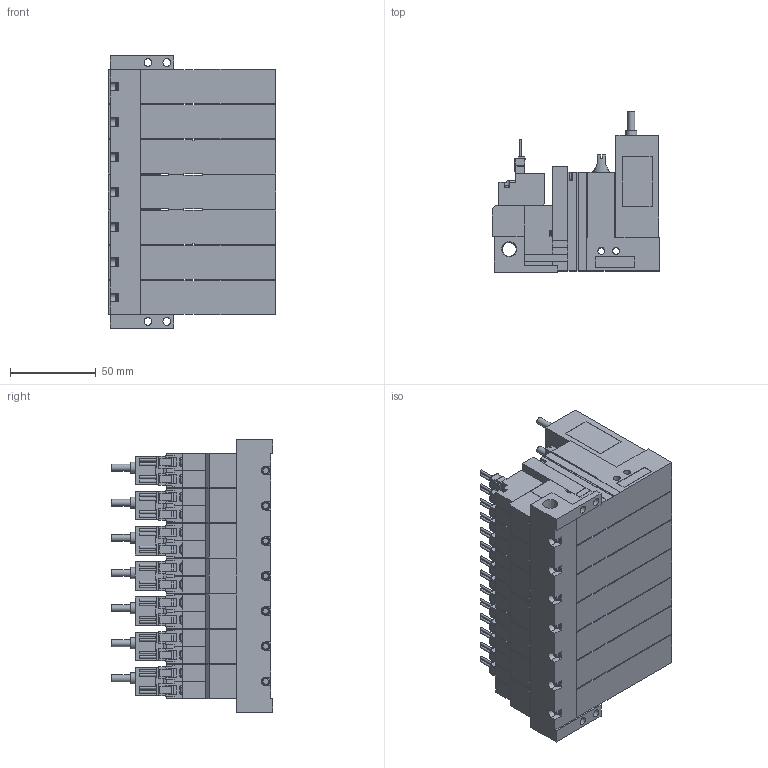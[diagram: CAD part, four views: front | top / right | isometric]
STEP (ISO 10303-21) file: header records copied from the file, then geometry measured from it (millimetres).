
FILE_DESCRIPTION(('STEP AP203'),'1');
FILE_NAME('VG_VGPLC5BLR707.stp','2025-02-25T04:43:40',(' '),(' '),'Spatial InterOp 3D',' ',' ');
FILE_SCHEMA(('CONFIG_CONTROL_DESIGN'));
Length unit declared in the file: millimetre
Products named in the file (5): BMC22M※※※※VG_VGPLC5BLR707; Solenoid valve B; Pressure sensor VGLC; Unit LC; Base MR70R
Assembly tree (22 placements, depth 2):
  BMC22M※※※※VG_VGPLC5BLR707
    Solenoid valve B  x7
    Pressure sensor VGLC  x7
    Unit LC  x7
    Base MR70R
Bounding box: 97.6 x 94 x 159 mm (x, y, z)
Volume: 781027.3 mm3; surface area: 199443.6 mm2
Topology: 22 solids, 22 shells, 2758 faces, 7388 edges, 4870 vertices
Faces by surface type: plane 2338, cylinder 334, cone 51, torus 35
Full cylindrical faces by diameter (mm): 1.4 x28, 2.5 x21, 3 x28, 3.5 x28, 3.6 x7, 4 x42, 4.134 x7, 4.5 x4, 5.2 x7, 6 x7, 6.5 x7, 6.6 x7, 8.279 x1
Entity records: 15675 total; most frequent: CARTESIAN_POINT 3047, DIRECTION 2502, ORIENTED_EDGE 2408, EDGE_CURVE 1204, LINE 954, VECTOR 954, VERTEX_POINT 848, AXIS2_PLACEMENT_3D 774
